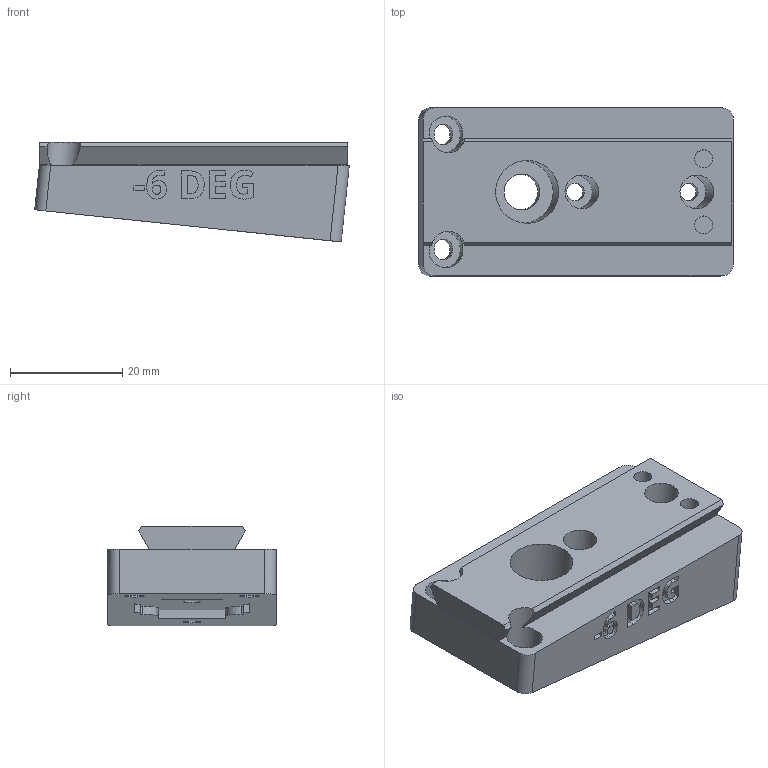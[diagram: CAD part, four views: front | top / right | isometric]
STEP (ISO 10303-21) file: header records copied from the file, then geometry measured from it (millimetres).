
FILE_DESCRIPTION(/* description */ ('STEP AP242 Edition 2','CAx-IF Rec.Pracs.---Representation and Presentation of Product Manufacturing Information (PMI)---4.0---2014-10-13','CAx-IF Rec.Pracs.---3D Tessellated Geometry---0.4---2014-09-14','2;1','CAx-IF Rec.Pracs.---User Defined Attributes---1.5---2016-08-15'),/* implementation_level */ '2;1');
FILE_NAME(/* name */ 'Camera Wedges - CAMERA MOUNTING WEDGE, NEG, -6 DEG',/* time_stamp */ '2026-08-11T00:11:24Z',/* author */ (''),/* organization */ (''),/* preprocessor_version */ 'ST-DEVELOPER v20',/* originating_system */ 'ONSHAPE BY PTC INC, 1.219',/* authorisation */ ' ');
FILE_SCHEMA (('AP242_MANAGED_MODEL_BASED_3D_ENGINEERING_MIM_LF { 1 0 10303 442 3 1 4 }'));
Length unit declared in the file: metre
Products named in the file (1): CAMERA MOUNTING WEDGE, NEG, -6 DEG
Bounding box: 56.14 x 30 x 17.82 mm (x, y, z)
Volume: 18679.8 mm3; surface area: 7401 mm2
Topology: 1 solids, 1 shells, 235 faces, 637 edges, 424 vertices
Faces by surface type: plane 125, bspline 68, cylinder 42
Full cylindrical faces by diameter (mm): 3.2 x4, 6 x2, 6.4 x1, 11.2 x1
Entity records: 7605 total; most frequent: CARTESIAN_POINT 2037, ORIENTED_EDGE 1258, DIRECTION 925, EDGE_CURVE 629, VERTEX_POINT 424, LINE 397, VECTOR 397, EDGE_LOOP 273
